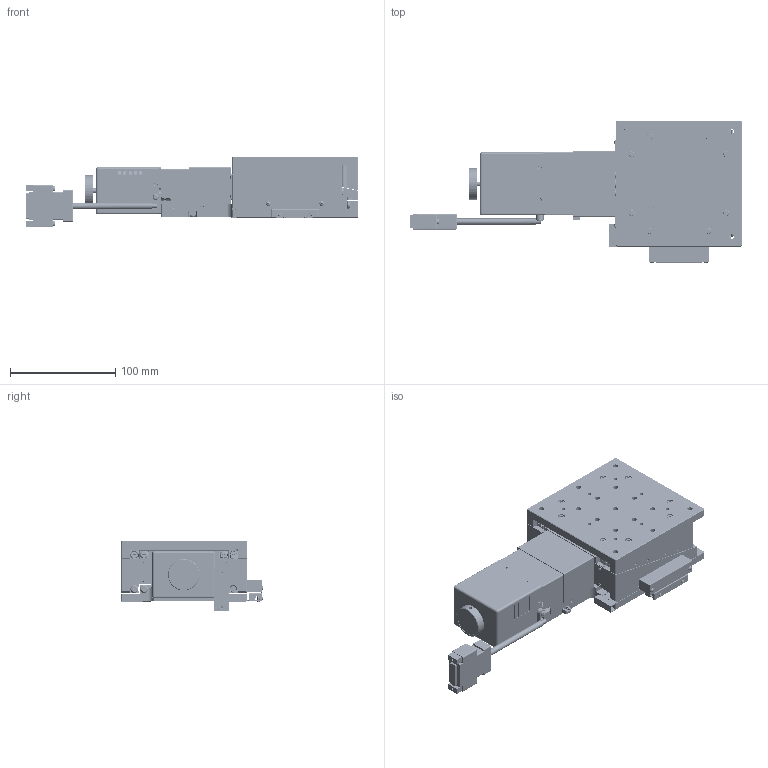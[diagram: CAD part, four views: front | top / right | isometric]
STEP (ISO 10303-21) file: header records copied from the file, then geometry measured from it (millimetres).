
FILE_DESCRIPTION(/* description */ (''),/* implementation_level */ '2;1');
FILE_NAME(/* name */ '\\FS301\share\Public_Div\生産本部_光学機器部\1_MEKA\4_開発\06_FDCC(2022年)\FDCC-010(薄型Z軸ｽﾃｰｼﾞ□120)\□120\OSMS120-5ZFW\OSMS120-5ZFW_STP.stp',/* time_stamp */ '2023-04-04T11:18:01+09:00',/* author */ ('y.hoshiba'),/* organization */ (''),/* preprocessor_version */ 'ST-DEVELOPER v18.1',/* originating_system */ 'Autodesk Inventor 2021',/* authorisation */ '');
FILE_SCHEMA (('AUTOMOTIVE_DESIGN { 1 0 10303 214 3 1 1 }'));
Products named in the file (1): ZFW1205-M02-23001-TS01
Bounding box: 316.1 x 135.66 x 67.35 mm (x, y, z)
Volume: 910823.7 mm3; surface area: 275579.5 mm2
Topology: 6 solids, 146 shells, 4267 faces, 10292 edges, 6615 vertices
Faces by surface type: plane 2587, cylinder 1071, cone 496, sphere 54, torus 49, bspline 10
Full cylindrical faces by diameter (mm): 1.45 x4, 1.47 x2, 1.567 x10, 1.6 x36, 1.8 x2, 2 x46, 2.113 x2, 2.2 x16, 2.4 x2, 2.459 x16, 2.5 x41, 3 x69, 3.1 x16, 3.2 x17, 3.242 x35, 3.3 x10, 3.4 x5, 3.5 x4, 3.7 x8, 3.9 x2, 4 x34, 4.2 x2, 4.5 x27, 5 x21, 5.5 x41, 5.7 x1, 6 x39, 6.5 x14, 7 x23, 7.6 x16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
Entity records: 127050 total; most frequent: CARTESIAN_POINT 24419, DIRECTION 21470, ORIENTED_EDGE 20576, EDGE_CURVE 10288, AXIS2_PLACEMENT_3D 7452, VERTEX_POINT 6743, LINE 6566, VECTOR 6566
